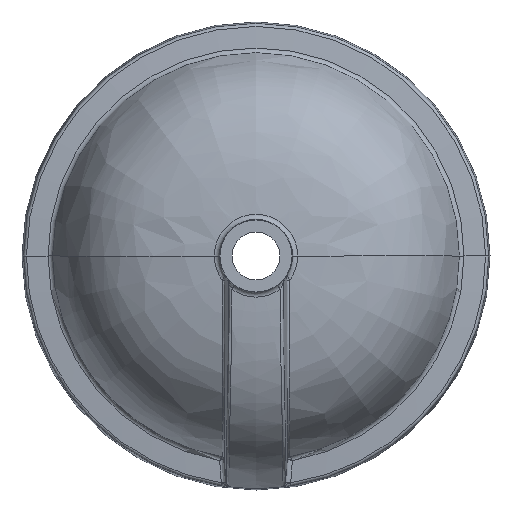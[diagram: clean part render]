
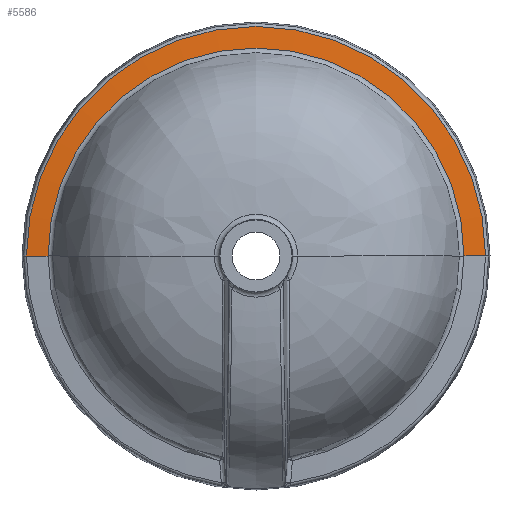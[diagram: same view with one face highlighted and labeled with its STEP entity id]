
A CAD part, front view. The second image highlights one B-rep face of the part: STEP entity #5586.
In plain terms, the highlighted conical face has half-angle 84.949 degrees and reference radius 192.012 mm.
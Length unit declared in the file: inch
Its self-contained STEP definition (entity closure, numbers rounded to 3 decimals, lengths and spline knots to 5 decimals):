
#85 = VERTEX_POINT ( 'NONE', #8266 ) ;
#310 = EDGE_CURVE ( 'NONE', #3284, #2483, #3800, .T. ) ;
#1255 = LINE ( 'NONE', #1845, #8378 ) ;
#1306 = EDGE_CURVE ( 'NONE', #2483, #2151, #1255, .T. ) ;
#1529 = DIRECTION ( 'NONE',  ( -1., 0., 0. ) ) ;
#1672 = CARTESIAN_POINT ( 'NONE',  ( 0., -0.88211, 0. ) ) ;
#1843 = CARTESIAN_POINT ( 'NONE',  ( 8.49705, -0.81143, 0. ) ) ;
#1845 = CARTESIAN_POINT ( 'NONE',  ( 7.55954, -0.89429, 0. ) ) ;
#2151 = VERTEX_POINT ( 'NONE', #1843 ) ;
#2483 = VERTEX_POINT ( 'NONE', #7704 ) ;
#2773 = ORIENTED_EDGE ( 'NONE', *, *, #3822, .F. ) ;
#2859 = AXIS2_PLACEMENT_3D ( 'NONE', #3781, #7147, #6608 ) ;
#3027 = CARTESIAN_POINT ( 'NONE',  ( -7.55954, -0.89429, 0. ) ) ;
#3284 = VERTEX_POINT ( 'NONE', #8313 ) ;
#3689 = DIRECTION ( 'NONE',  ( 1., 0., 0. ) ) ;
#3781 = CARTESIAN_POINT ( 'NONE',  ( 0., -0.89429, 0. ) ) ;
#3800 = CIRCLE ( 'NONE', #5372, 7.69739 ) ;
#3822 = EDGE_CURVE ( 'NONE', #3284, #85, #8496, .T. ) ;
#3995 = DIRECTION ( 'NONE',  ( 0.996, 0.088, 0. ) ) ;
#4838 = DIRECTION ( 'NONE',  ( 0., -1., 0. ) ) ;
#5124 = FACE_OUTER_BOUND ( 'NONE', #6011, .T. ) ;
#5372 = AXIS2_PLACEMENT_3D ( 'NONE', #1672, #7862, #3689 ) ;
#5507 = VECTOR ( 'NONE', #8627, 39.37008 ) ;
#5586 = ADVANCED_FACE ( 'NONE', ( #5124 ), #6864, .T. ) ;
#6011 = EDGE_LOOP ( 'NONE', ( #6591, #6548, #8619, #2773 ) ) ;
#6200 = CIRCLE ( 'NONE', #7355, 8.49705 ) ;
#6548 = ORIENTED_EDGE ( 'NONE', *, *, #1306, .T. ) ;
#6591 = ORIENTED_EDGE ( 'NONE', *, *, #310, .T. ) ;
#6608 = DIRECTION ( 'NONE',  ( -1., 0., 0. ) ) ;
#6864 = CONICAL_SURFACE ( 'NONE', #2859, 7.55954, 1.483 ) ;
#7147 = DIRECTION ( 'NONE',  ( 0., 1., 0. ) ) ;
#7355 = AXIS2_PLACEMENT_3D ( 'NONE', #7490, #4838, #1529 ) ;
#7490 = CARTESIAN_POINT ( 'NONE',  ( 0., -0.81143, 0. ) ) ;
#7704 = CARTESIAN_POINT ( 'NONE',  ( 7.69739, -0.88211, 0. ) ) ;
#7862 = DIRECTION ( 'NONE',  ( 0., 1., 0. ) ) ;
#8156 = EDGE_CURVE ( 'NONE', #2151, #85, #6200, .T. ) ;
#8266 = CARTESIAN_POINT ( 'NONE',  ( -8.49705, -0.81143, 0. ) ) ;
#8313 = CARTESIAN_POINT ( 'NONE',  ( -7.69739, -0.88211, 0. ) ) ;
#8378 = VECTOR ( 'NONE', #3995, 39.37008 ) ;
#8496 = LINE ( 'NONE', #3027, #5507 ) ;
#8619 = ORIENTED_EDGE ( 'NONE', *, *, #8156, .T. ) ;
#8627 = DIRECTION ( 'NONE',  ( -0.996, 0.088, 0. ) ) ;
